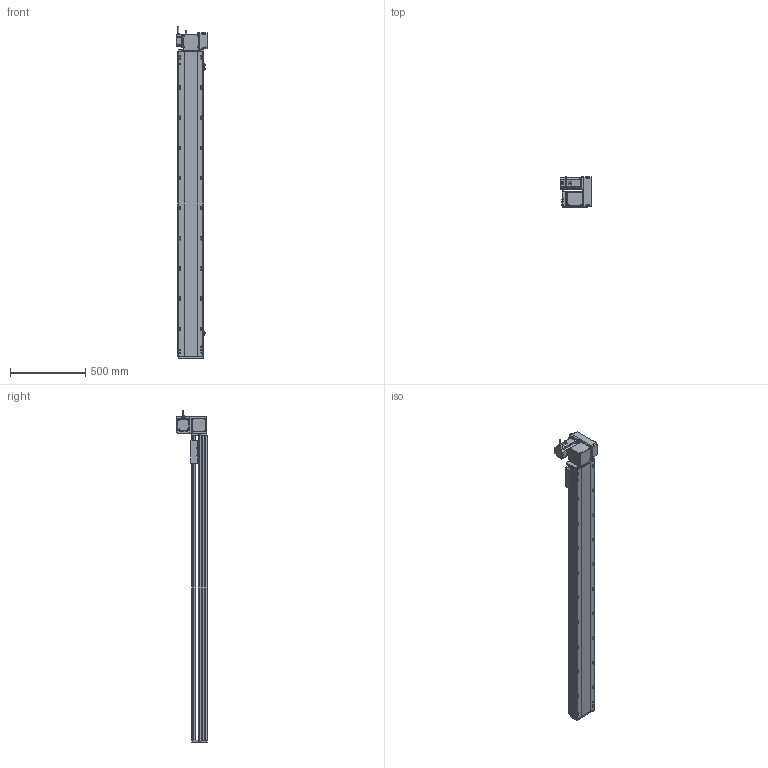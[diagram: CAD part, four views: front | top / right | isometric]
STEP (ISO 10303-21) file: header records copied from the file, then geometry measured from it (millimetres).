
FILE_DESCRIPTION (( 'STEP AP214' ), '1' );
FILE_NAME ('RTB17S-XX-1750-RW-M75-C4.STEP', '2025-12-12T02:40:21', ( '' ), ( '' ), 'SwSTEP 2.0', 'SolidWorks 2018', '' );
FILE_SCHEMA (( 'AUTOMOTIVE_DESIGN' ));
Length unit declared in the file: millimetre
Products named in the file (15): 750W萇儂^RTB17S-XX-XX-RW-M75-C4; RTB17-R-011菁釱^RTB17S-XX-XX-RW-M75-C4; RTB17S-L-004-賑釱^RTB17S-賑釱_RTB17S-XX-XX-RW-M75-C4; RMP17S-L-014-T20-P75--々湍釱^RTB17S-RW-々湍釱蚾饜-750W_RTB17S-XX-XX-RW-M75-C4; EE672^RTB17S-XX-XX-RW-M75-C4; RTB17S-L-001-耜醱啣^RTB17S-XX-XX-RW-M75-C4; RTB17S-RW-々湍釱蚾饜-750W^RTB17S-XX-XX-RW-M75-C4; RTB17S-XX-1750-RW-M75-C4; RTB22S-GY-008-M75--萇儂啣^RTB17S-RW-々湍釱蚾饜-750W_RTB17S-XX-XX-RW-M75-C4; RTB22S-GY-005P^RTB17S-RW-々湍釱蚾饜-750W_RTB17S-XX-XX-RW-M75-C4; RTB22S-GY-017P^RTB17S-RW-々湍釱蚾饜-750W_RTB17S-XX-XX-RW-M75-C4; RTB17S-賑釱^RTB17S-XX-XX-RW-M75-C4; RTB22S-GY-018P^RTB17S-RW-々湍釱蚾饜-750W_RTB17S-XX-XX-RW-M75-C4; RTB17S-L-007奻裔^RTB17S-XX-XX-RW-M75-C4; RTH13-BL-012覜茼え俋离^RTB17S-賑釱_RTB17S-XX-XX-RW-M75-C4
Assembly tree (17 placements, depth 3):
  RTB17S-XX-1750-RW-M75-C4
    RTB17-R-011菁釱^RTB17S-XX-XX-RW-M75-C4
    EE672^RTB17S-XX-XX-RW-M75-C4  x3
    RTB17S-L-001-耜醱啣^RTB17S-XX-XX-RW-M75-C4
    RTB17S-賑釱^RTB17S-XX-XX-RW-M75-C4
      RTB17S-L-004-賑釱^RTB17S-賑釱_RTB17S-XX-XX-RW-M75-C4
      RTH13-BL-012覜茼え俋离^RTB17S-賑釱_RTB17S-XX-XX-RW-M75-C4
    RTB17S-L-007奻裔^RTB17S-XX-XX-RW-M75-C4
    750W萇儂^RTB17S-XX-XX-RW-M75-C4
    RTB17S-RW-々湍釱蚾饜-750W^RTB17S-XX-XX-RW-M75-C4
      RMP17S-L-014-T20-P75--々湍釱^RTB17S-RW-々湍釱蚾饜-750W_RTB17S-XX-XX-RW-M75-C4
      RTB22S-GY-005P^RTB17S-RW-々湍釱蚾饜-750W_RTB17S-XX-XX-RW-M75-C4
      RTB22S-GY-017P^RTB17S-RW-々湍釱蚾饜-750W_RTB17S-XX-XX-RW-M75-C4  x2
      RTB22S-GY-008-M75--萇儂啣^RTB17S-RW-々湍釱蚾饜-750W_RTB17S-XX-XX-RW-M75-C4
      RTB22S-GY-018P^RTB17S-RW-々湍釱蚾饜-750W_RTB17S-XX-XX-RW-M75-C4
Bounding box: 207.4 x 201.5 x 2202.2 mm (x, y, z)
Volume: 16889508.2 mm3; surface area: 2992166 mm2
Topology: 17 solids, 17 shells, 2153 faces, 5998 edges, 3878 vertices
Faces by surface type: plane 978, cylinder 759, bspline 294, cone 110, sphere 8, torus 4
Entity records: 61174 total; most frequent: CARTESIAN_POINT 18062, ORIENTED_EDGE 8840, DIRECTION 8222, EDGE_CURVE 4420, AXIS2_PLACEMENT_3D 2898, VERTEX_POINT 2882, VECTOR 2426, LINE 2426
